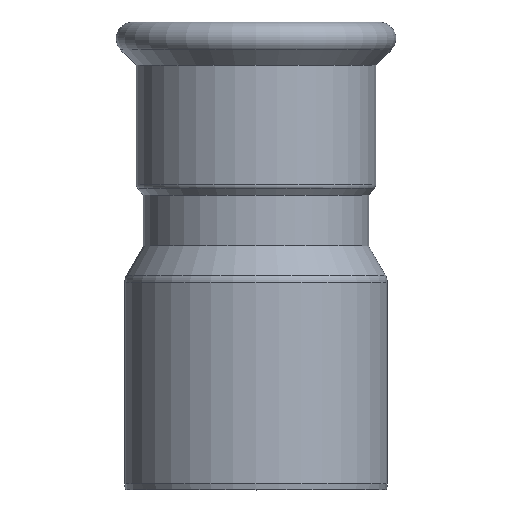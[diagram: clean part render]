
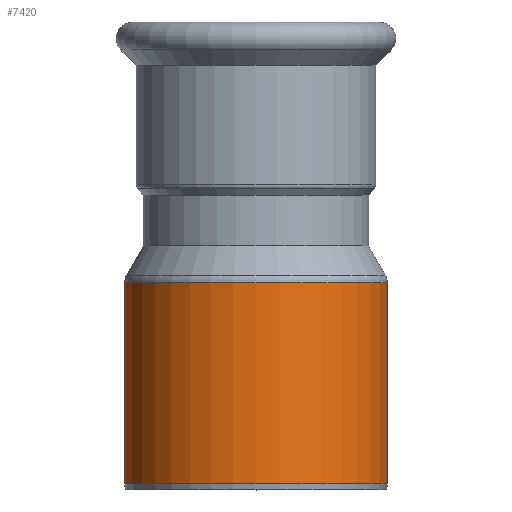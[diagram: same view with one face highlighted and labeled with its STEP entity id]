
A CAD part, top view. The second image highlights one B-rep face of the part: STEP entity #7420.
In plain terms, the highlighted cylindrical face has radius 44.45 mm (diameter 88.9 mm), a partial arc.
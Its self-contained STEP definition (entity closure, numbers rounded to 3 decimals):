
#1870=CARTESIAN_POINT('',(-202.976,33.421,0.));
#1880=DIRECTION('',(0.,-1.,0.));
#1890=DIRECTION('',(1.,0.,0.));
#1900=AXIS2_PLACEMENT_3D('',#1870,#1880,#1890);
#1910=CYLINDRICAL_SURFACE('',#1900,44.45);
#1920=CARTESIAN_POINT('',(-247.426,33.421,
0.));
#1930=DIRECTION('',(0.,-1.,0.));
#1940=VECTOR('',#1930,1.);
#1950=LINE('',#1920,#1940);
#1960=CARTESIAN_POINT('',(-247.426,-17.436,0.));
#1970=VERTEX_POINT('',#1960);
#1980=CARTESIAN_POINT('',(-247.426,-85.379,
0.));
#1990=VERTEX_POINT('',#1980);
#2000=EDGE_CURVE('',#1970,#1990,#1950,.T.);
#2020=CARTESIAN_POINT('',(-202.976,-85.379,0.));
#2030=DIRECTION('',(0.,-1.,0.));
#2040=DIRECTION('',(-1.,0.,0.));
#2050=AXIS2_PLACEMENT_3D('',#2020,#2030,#2040);
#2060=CIRCLE('',#2050,44.45);
#2070=CARTESIAN_POINT('',(-158.526,-85.379,0.));
#2080=VERTEX_POINT('',#2070);
#2110=CARTESIAN_POINT('',(-158.526,33.421,0.));
#2120=DIRECTION('',(0.,-1.,0.));
#2130=VECTOR('',#2120,1.);
#2140=LINE('',#2110,#2130);
#2150=CARTESIAN_POINT('',(-158.526,-17.436,0.));
#2160=VERTEX_POINT('',#2150);
#2170=EDGE_CURVE('',#2160,#2080,#2140,.T.);
#2190=CARTESIAN_POINT('',(-202.976,-17.436,0.));
#2200=DIRECTION('',(0.,-1.,0.));
#2210=DIRECTION('',(-1.,0.,0.));
#2220=AXIS2_PLACEMENT_3D('',#2190,#2200,#2210);
#2230=CIRCLE('',#2220,44.45);
#7340=EDGE_CURVE('',#2080,#1990,#2060,.T.);
#7350=ORIENTED_EDGE('',*,*,#7340,.F.);
#7360=ORIENTED_EDGE('',*,*,#2000,.T.);
#7370=EDGE_CURVE('',#2160,#1970,#2230,.T.);
#7380=ORIENTED_EDGE('',*,*,#7370,.T.);
#7390=ORIENTED_EDGE('',*,*,#2170,.F.);
#7400=EDGE_LOOP('',(#7390,#7380,#7360,#7350));
#7410=FACE_OUTER_BOUND('',#7400,.T.);
#7420=ADVANCED_FACE('',(#7410),#1910,.T.);
